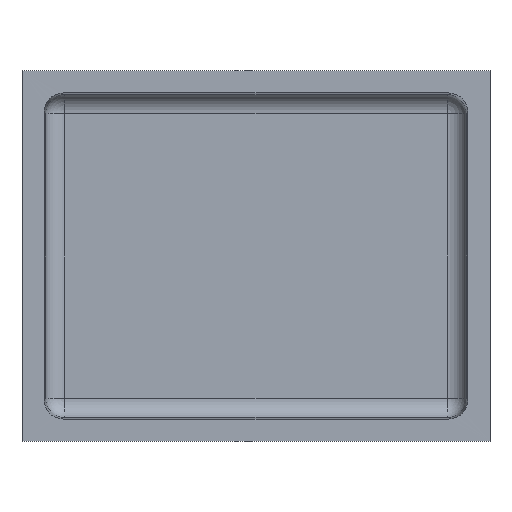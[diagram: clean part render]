
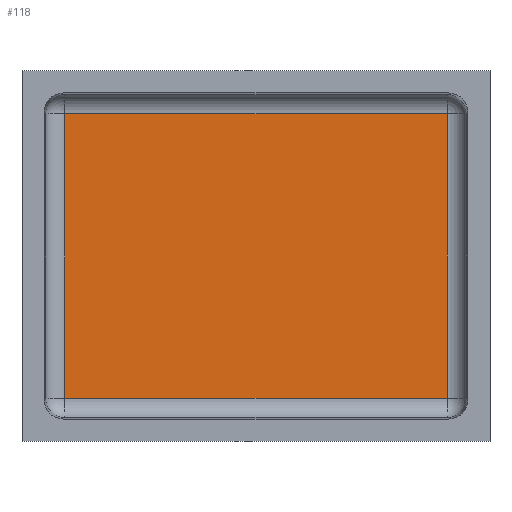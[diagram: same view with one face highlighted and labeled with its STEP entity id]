
A CAD part, front view. The second image highlights one B-rep face of the part: STEP entity #118.
In plain terms, the highlighted planar face has unit normal (0, -1, 0).
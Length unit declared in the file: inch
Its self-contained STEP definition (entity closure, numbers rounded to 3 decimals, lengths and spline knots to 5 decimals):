
#5 = CARTESIAN_POINT ( 'NONE',  ( 4.935, 1.19, -3.19325 ) ) ;
#38 = ORIENTED_EDGE ( 'NONE', *, *, #360, .F. ) ;
#80 = CARTESIAN_POINT ( 'NONE',  ( -4.28325, 1.19, -3.845 ) ) ;
#105 = VERTEX_POINT ( 'NONE', #795 ) ;
#118 = ADVANCED_FACE ( 'NONE', ( #426 ), #119, .F. ) ;
#119 = PLANE ( 'NONE',  #764 ) ;
#127 = LINE ( 'NONE', #195, #205 ) ;
#137 = LINE ( 'NONE', #5, #778 ) ;
#158 = DIRECTION ( 'NONE',  ( 0., 0., 1. ) ) ;
#182 = CARTESIAN_POINT ( 'NONE',  ( 4.935, 1.19, -3.845 ) ) ;
#195 = CARTESIAN_POINT ( 'NONE',  ( 4.935, 1.19, 3.19325 ) ) ;
#204 = LINE ( 'NONE', #80, #741 ) ;
#205 = VECTOR ( 'NONE', #450, 39.37008 ) ;
#252 = EDGE_CURVE ( 'NONE', #553, #388, #137, .T. ) ;
#272 = VECTOR ( 'NONE', #738, 39.37008 ) ;
#289 = CARTESIAN_POINT ( 'NONE',  ( -4.28325, 1.19, -3.19325 ) ) ;
#295 = CARTESIAN_POINT ( 'NONE',  ( 4.28325, 1.19, -3.845 ) ) ;
#323 = DIRECTION ( 'NONE',  ( -1., 0., 0. ) ) ;
#351 = DIRECTION ( 'NONE',  ( 0., 0., 1. ) ) ;
#360 = EDGE_CURVE ( 'NONE', #105, #553, #467, .T. ) ;
#388 = VERTEX_POINT ( 'NONE', #289 ) ;
#426 = FACE_OUTER_BOUND ( 'NONE', #578, .T. ) ;
#450 = DIRECTION ( 'NONE',  ( 1., 0., 0. ) ) ;
#467 = LINE ( 'NONE', #295, #272 ) ;
#502 = DIRECTION ( 'NONE',  ( 0., 1., 0. ) ) ;
#508 = CARTESIAN_POINT ( 'NONE',  ( 4.28325, 1.19, -3.19325 ) ) ;
#550 = EDGE_CURVE ( 'NONE', #653, #105, #127, .T. ) ;
#553 = VERTEX_POINT ( 'NONE', #508 ) ;
#578 = EDGE_LOOP ( 'NONE', ( #38, #708, #763, #810 ) ) ;
#653 = VERTEX_POINT ( 'NONE', #791 ) ;
#694 = EDGE_CURVE ( 'NONE', #388, #653, #204, .T. ) ;
#708 = ORIENTED_EDGE ( 'NONE', *, *, #550, .F. ) ;
#738 = DIRECTION ( 'NONE',  ( 0., 0., -1. ) ) ;
#741 = VECTOR ( 'NONE', #158, 39.37008 ) ;
#763 = ORIENTED_EDGE ( 'NONE', *, *, #694, .F. ) ;
#764 = AXIS2_PLACEMENT_3D ( 'NONE', #182, #502, #351 ) ;
#778 = VECTOR ( 'NONE', #323, 39.37008 ) ;
#791 = CARTESIAN_POINT ( 'NONE',  ( -4.28325, 1.19, 3.19325 ) ) ;
#795 = CARTESIAN_POINT ( 'NONE',  ( 4.28325, 1.19, 3.19325 ) ) ;
#810 = ORIENTED_EDGE ( 'NONE', *, *, #252, .F. ) ;
